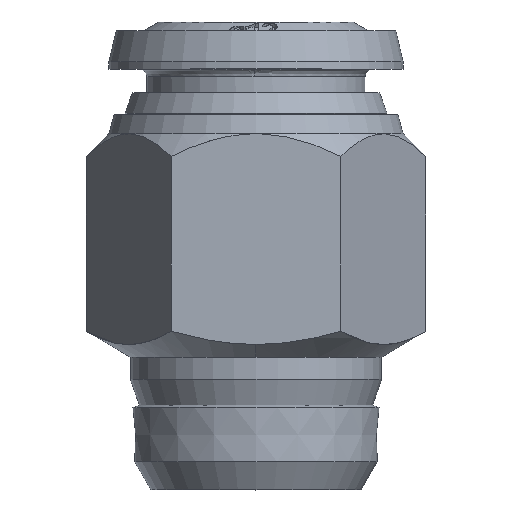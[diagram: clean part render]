
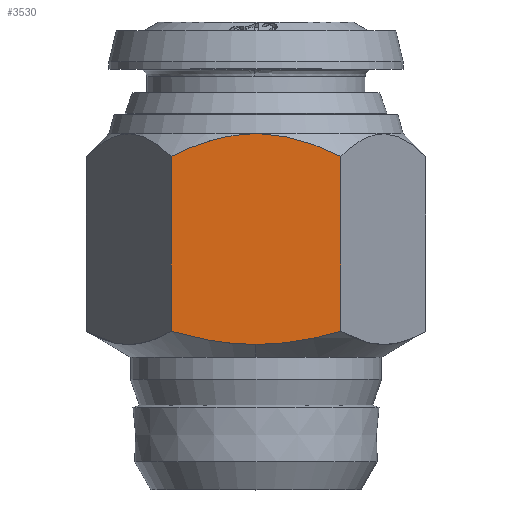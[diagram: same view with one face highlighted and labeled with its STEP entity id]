
A CAD part, top view. The second image highlights one B-rep face of the part: STEP entity #3530.
In plain terms, the highlighted planar face has unit normal (0, 0, 1).
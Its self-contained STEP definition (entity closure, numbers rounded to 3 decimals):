
#167=PLANE('',#4037);
#388=B_SPLINE_CURVE_WITH_KNOTS('',3,(#12235,#12236,#12237,#12238,#12239,
#12240,#12241,#12242,#12243,#12244),.UNSPECIFIED.,.F.,.F.,(4,3,3,4),(0.,
0.25,0.5,1.),.UNSPECIFIED.);
#389=B_SPLINE_CURVE_WITH_KNOTS('',3,(#12248,#12249,#12250,#12251),
 .UNSPECIFIED.,.F.,.F.,(4,4),(0.,1.),.UNSPECIFIED.);
#390=B_SPLINE_CURVE_WITH_KNOTS('',3,(#12253,#12254,#12255,#12256),
 .UNSPECIFIED.,.F.,.F.,(4,4),(0.,1.),.UNSPECIFIED.);
#566=FACE_OUTER_BOUND('',#733,.T.);
#733=EDGE_LOOP('',(#3192,#3193,#3194,#3195,#3196));
#970=LINE('',#12246,#1186);
#971=LINE('',#12257,#1187);
#1186=VECTOR('',#4727,11.892);
#1187=VECTOR('',#4728,11.892);
#1920=VERTEX_POINT('',#12233);
#1921=VERTEX_POINT('',#12234);
#1922=VERTEX_POINT('',#12245);
#1923=VERTEX_POINT('',#12247);
#1924=VERTEX_POINT('',#12252);
#2556=EDGE_CURVE('',#1920,#1921,#388,.T.);
#2557=EDGE_CURVE('',#1921,#1922,#970,.T.);
#2558=EDGE_CURVE('',#1922,#1923,#389,.T.);
#2559=EDGE_CURVE('',#1923,#1924,#390,.T.);
#2560=EDGE_CURVE('',#1924,#1920,#971,.T.);
#3192=ORIENTED_EDGE('',*,*,#2556,.T.);
#3193=ORIENTED_EDGE('',*,*,#2557,.T.);
#3194=ORIENTED_EDGE('',*,*,#2558,.T.);
#3195=ORIENTED_EDGE('',*,*,#2559,.T.);
#3196=ORIENTED_EDGE('',*,*,#2560,.T.);
#3530=ADVANCED_FACE('',(#566),#167,.T.);
#4037=AXIS2_PLACEMENT_3D('',#12232,#4725,#4726);
#4725=DIRECTION('center_axis',(0.,0.,1.));
#4726=DIRECTION('ref_axis',(1.,0.,0.));
#4727=DIRECTION('',(0.,-1.,0.));
#4728=DIRECTION('',(0.,1.,0.));
#12232=CARTESIAN_POINT('Origin',(0.,9.78,10.));
#12233=CARTESIAN_POINT('',(5.774,22.651,10.));
#12234=CARTESIAN_POINT('',(-5.774,22.651,10.));
#12235=CARTESIAN_POINT('Ctrl Pts',(5.774,22.651,10.));
#12236=CARTESIAN_POINT('Ctrl Pts',(4.871,23.102,10.));
#12237=CARTESIAN_POINT('Ctrl Pts',(3.949,23.486,10.));
#12238=CARTESIAN_POINT('Ctrl Pts',(2.993,23.76,10.));
#12239=CARTESIAN_POINT('Ctrl Pts',(2.038,24.034,10.));
#12240=CARTESIAN_POINT('Ctrl Pts',(1.029,24.196,10.));
#12241=CARTESIAN_POINT('Ctrl Pts',(0.021,24.198,
10.));
#12242=CARTESIAN_POINT('Ctrl Pts',(-1.995,24.203,10.));
#12243=CARTESIAN_POINT('Ctrl Pts',(-3.958,23.559,10.));
#12244=CARTESIAN_POINT('Ctrl Pts',(-5.774,22.651,10.));
#12245=CARTESIAN_POINT('',(-5.774,10.759,10.));
#12246=CARTESIAN_POINT('',(-5.774,22.651,10.));
#12247=CARTESIAN_POINT('',(0.,9.866,10.));
#12248=CARTESIAN_POINT('Ctrl Pts',(-5.774,10.759,10.));
#12249=CARTESIAN_POINT('Ctrl Pts',(-3.887,10.215,10.));
#12250=CARTESIAN_POINT('Ctrl Pts',(-1.971,9.866,10.));
#12251=CARTESIAN_POINT('Ctrl Pts',(0.,9.866,10.));
#12252=CARTESIAN_POINT('',(5.774,10.759,10.));
#12253=CARTESIAN_POINT('Ctrl Pts',(0.,9.866,10.));
#12254=CARTESIAN_POINT('Ctrl Pts',(1.971,9.866,10.));
#12255=CARTESIAN_POINT('Ctrl Pts',(3.887,10.215,10.));
#12256=CARTESIAN_POINT('Ctrl Pts',(5.774,10.759,10.));
#12257=CARTESIAN_POINT('',(5.774,10.759,10.));
